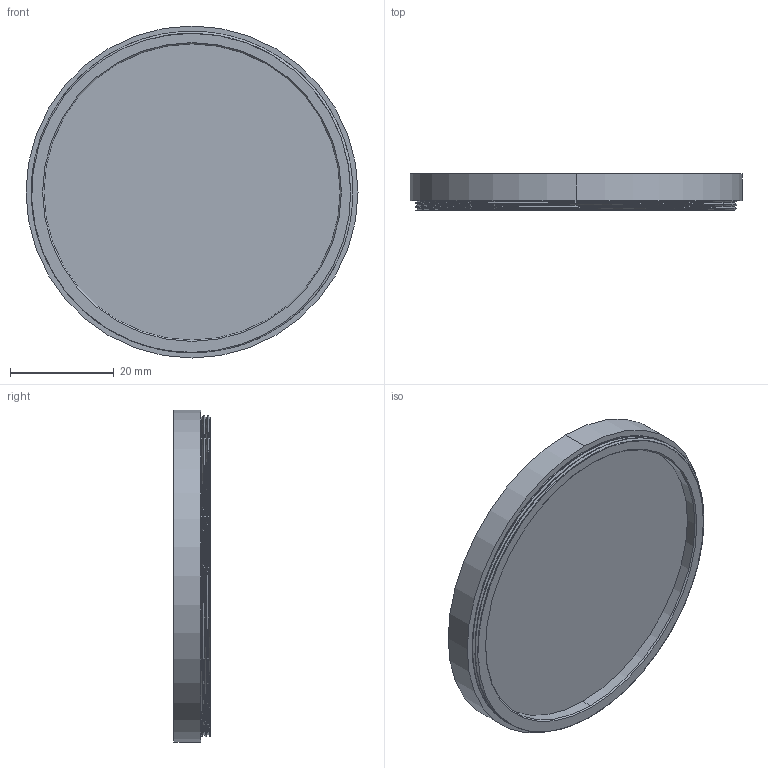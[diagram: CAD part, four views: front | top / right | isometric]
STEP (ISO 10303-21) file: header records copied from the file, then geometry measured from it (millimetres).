
FILE_DESCRIPTION (( 'STEP AP214' ), '1' );
FILE_NAME ('M62 x P0.75.STEP', '2023-01-19T08:18:15', ( '' ), ( '' ), 'SwSTEP 2.0', 'SolidWorks 2021', '' );
FILE_SCHEMA (( 'AUTOMOTIVE_DESIGN' ));
Length unit declared in the file: millimetre
Products named in the file (1): M62 x P0.75
Bounding box: 64 x 7 x 64 mm (x, y, z)
Volume: 3874.9 mm3; surface area: 10976.1 mm2
Topology: 3 solids, 3 shells, 47 faces, 112 edges, 74 vertices
Faces by surface type: cylinder 25, plane 11, bspline 9, cone 2
Entity records: 3251 total; most frequent: CARTESIAN_POINT 2233, ORIENTED_EDGE 224, DIRECTION 173, EDGE_CURVE 112, VERTEX_POINT 74, AXIS2_PLACEMENT_3D 73, EDGE_LOOP 54, FACE_OUTER_BOUND 47
